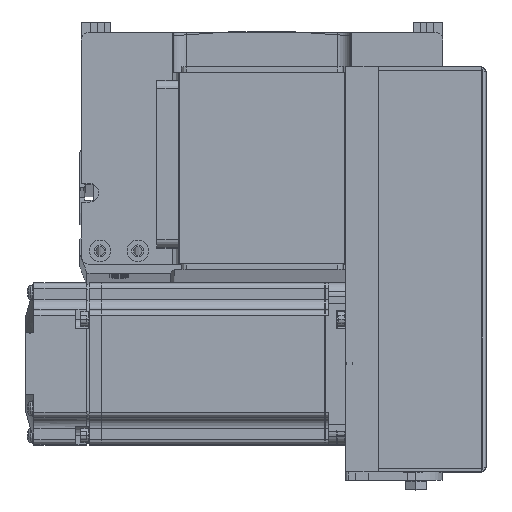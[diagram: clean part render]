
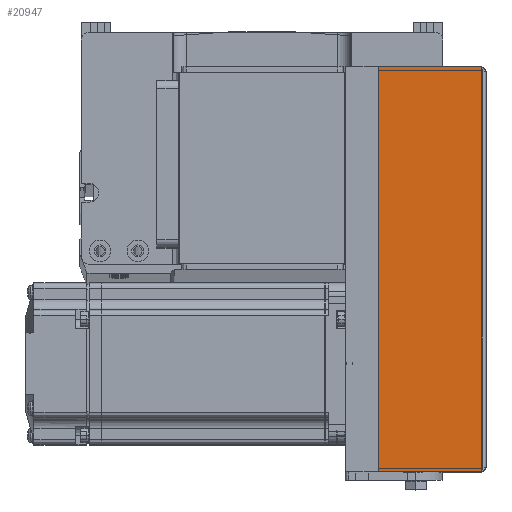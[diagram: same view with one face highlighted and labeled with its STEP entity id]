
A CAD part, top view. The second image highlights one B-rep face of the part: STEP entity #20947.
In plain terms, the highlighted planar face has unit normal (0, 0, 1) as drawn and (0, 1, 0) by its records, which use the part's own axes.
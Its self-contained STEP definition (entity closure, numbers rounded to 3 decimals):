
#96 = CARTESIAN_POINT ( 'NONE',  ( -75., 36., 50.3 ) ) ;
#414 = DIRECTION ( 'NONE',  ( 0., -1., 0. ) ) ;
#1624 = LINE ( 'NONE', #32115, #24157 ) ;
#4016 = ORIENTED_EDGE ( 'NONE', *, *, #18075, .T. ) ;
#6492 = LINE ( 'NONE', #96, #23606 ) ;
#7255 = CARTESIAN_POINT ( 'NONE',  ( 0., 36., 50.8 ) ) ;
#10660 = CARTESIAN_POINT ( 'NONE',  ( 0., 36., 12. ) ) ;
#10824 = DIRECTION ( 'NONE',  ( 0., 0., 1. ) ) ;
#11047 = FACE_OUTER_BOUND ( 'NONE', #20232, .T. ) ;
#15702 = EDGE_CURVE ( 'NONE', #23079, #16636, #40751, .T. ) ;
#16636 = VERTEX_POINT ( 'NONE', #19309 ) ;
#16818 = VECTOR ( 'NONE', #21171, 1000. ) ;
#17206 = CARTESIAN_POINT ( 'NONE',  ( -75., 36., 50.3 ) ) ;
#18075 = EDGE_CURVE ( 'NONE', #38830, #23079, #1624, .T. ) ;
#19309 = CARTESIAN_POINT ( 'NONE',  ( -75., 36., 12. ) ) ;
#19784 = DIRECTION ( 'NONE',  ( -1., 0., 0. ) ) ;
#20232 = EDGE_LOOP ( 'NONE', ( #32445, #4016, #38343, #23392 ) ) ;
#20947 = ADVANCED_FACE ( 'NONE', ( #11047 ), #21187, .F. ) ;
#21171 = DIRECTION ( 'NONE',  ( 0., 0., -1. ) ) ;
#21187 = PLANE ( 'NONE',  #22363 ) ;
#21599 = CARTESIAN_POINT ( 'NONE',  ( 75., 36., 50.3 ) ) ;
#22363 = AXIS2_PLACEMENT_3D ( 'NONE', #7255, #414, #10824 ) ;
#23079 = VERTEX_POINT ( 'NONE', #37830 ) ;
#23392 = ORIENTED_EDGE ( 'NONE', *, *, #30638, .F. ) ;
#23606 = VECTOR ( 'NONE', #19784, 1000. ) ;
#24157 = VECTOR ( 'NONE', #28997, 1000. ) ;
#24476 = LINE ( 'NONE', #17206, #16818 ) ;
#24714 = VERTEX_POINT ( 'NONE', #28652 ) ;
#25307 = VECTOR ( 'NONE', #30529, 1000. ) ;
#27102 = EDGE_CURVE ( 'NONE', #38830, #24714, #6492, .T. ) ;
#28652 = CARTESIAN_POINT ( 'NONE',  ( -75., 36., 50.3 ) ) ;
#28997 = DIRECTION ( 'NONE',  ( 0., 0., -1. ) ) ;
#30529 = DIRECTION ( 'NONE',  ( -1., 0., 0. ) ) ;
#30638 = EDGE_CURVE ( 'NONE', #24714, #16636, #24476, .T. ) ;
#32115 = CARTESIAN_POINT ( 'NONE',  ( 75., 36., 50.3 ) ) ;
#32445 = ORIENTED_EDGE ( 'NONE', *, *, #27102, .F. ) ;
#37830 = CARTESIAN_POINT ( 'NONE',  ( 75., 36., 12. ) ) ;
#38343 = ORIENTED_EDGE ( 'NONE', *, *, #15702, .T. ) ;
#38830 = VERTEX_POINT ( 'NONE', #21599 ) ;
#40751 = LINE ( 'NONE', #10660, #25307 ) ;
